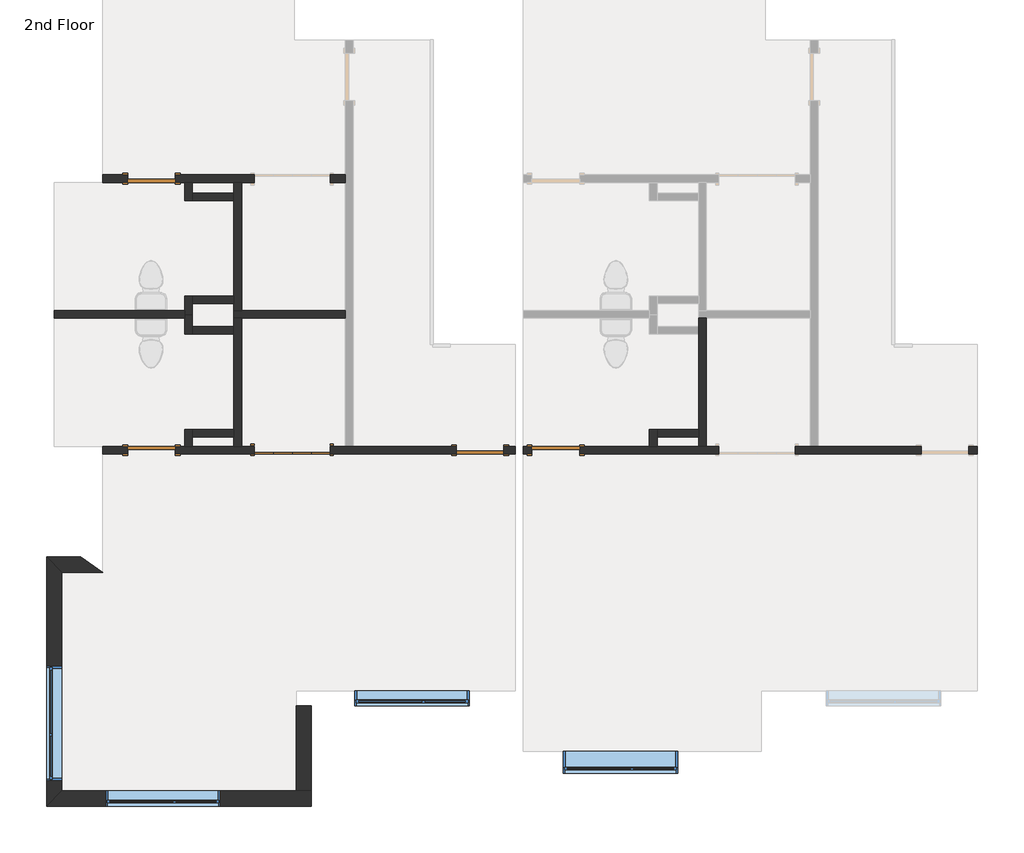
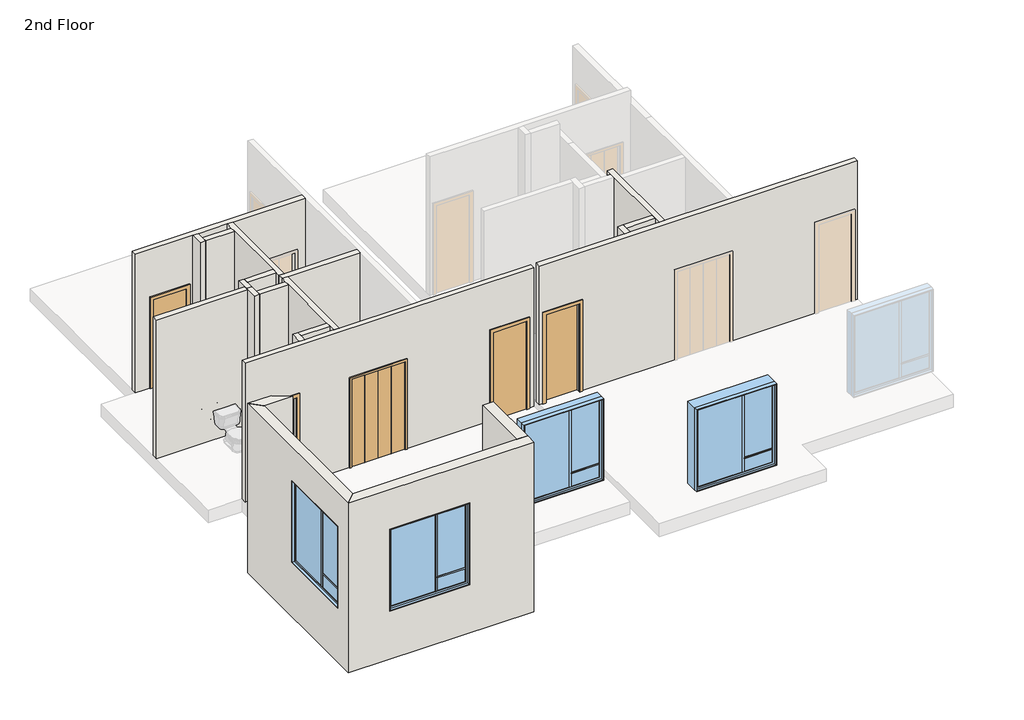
# One storey, part 1 of 2: 22 walls, 5 doors, 4 windows.
"""IFC4 building model written with IfcOpenShell, lengths in millimetres."""

from ifc_helpers import new_model, si_unit, frame, origin, place, context, project, spatial, polyline, outline, extrude, faceted_brep, transform, mapped, element, save
from components import bifold_4_panel_c9060b8c, door_f8acb57e, door_702a1063, condo_apartment_window1_condo_apartment_window1_2f492663, condo_apartment_window1_condo_apartment_window1_8ec80de7

model = new_model("IFC4")

# Units and contexts
model_context = context("Model", 3, world=origin())
ifc_project = project(units=[si_unit("LENGTHUNIT", "METRE", prefix="MILLI")], contexts=[model_context])

# Site, building, storey
site = spatial("IfcSite", under=ifc_project)
building = spatial("IfcBuilding", under=site)
storey = spatial("IfcBuildingStorey", under=building, Name="2nd Floor", Elevation=3352.8)

# Doors
placement = place(None, origin())
bifold_4_panel_shape = bifold_4_panel_c9060b8c(model_context)
element("IfcDoor", 1, ObjectType="Bifold - 4 panel : 48\" x  84\"", at=placement, inside=storey, context=model_context, shape_type="MappedRepresentation", body=[
    mapped(bifold_4_panel_shape, transform((-7422.1019769, 50216.974008, 3352.8), x_axis=(1.0, 0.0, 0.0), y_axis=(0.0, 1.0, 0.0), z_axis=(0.0, 0.0, 1.0))),
])
door_shape = door_f8acb57e(model_context)
element("IfcDoor", 2, ObjectType="Single-Flush : 30\" x 84\"", at=placement, inside=storey, context=model_context, shape_type="MappedRepresentation", body=[
    mapped(door_shape, transform((-9675.5622339, 50216.974008, 3352.8), x_axis=(1.0, 0.0, 0.0), y_axis=(0.0, 1.0, 0.0), z_axis=(0.0, 0.0, 1.0))),
])
door_2_shape = door_702a1063(model_context)
element("IfcDoor", 3, ObjectType="Single-Flush : 30\" x 84\"", at=placement, inside=storey, context=model_context, shape_type="MappedRepresentation", body=[
    mapped(door_2_shape, transform((-3203.0622339, 50216.974008, 3352.8), x_axis=(-1.0, 0.0, 0.0), y_axis=(0.0, -1.0, 0.0), z_axis=(0.0, 0.0, 1.0))),
])
element("IfcDoor", 4, ObjectType="Single-Flush : 30\" x 84\"", at=placement, inside=storey, context=model_context, shape_type="MappedRepresentation", body=[
    mapped(door_2_shape, transform((-9675.5622339, 54569.10012, 3352.8), x_axis=(1.0, 0.0, 0.0), y_axis=(0.0, 1.0, 0.0), z_axis=(0.0, 0.0, 1.0))),
])
element("IfcDoor", 5, ObjectType="Single-Flush : 30\" x 84\"", at=placement, inside=storey, context=model_context, shape_type="MappedRepresentation", body=[
    mapped(door_2_shape, transform((-4414.0519769, 50216.974008, 3352.8), x_axis=(1.0, 0.0, 0.0), y_axis=(0.0, 1.0, 0.0), z_axis=(0.0, 0.0, 1.0))),
])

# Walls
element("IfcWall", 6, ObjectType="Exterior - Stucco", at=placement, inside=storey, context=model_context, shape_type="Brep", body=[
    faceted_brep([(-11355.1372339, 44517.436508, 2952.8), (-7113.7497339, 44517.436508, 2952.8), (-7113.7497339, 44517.436508, 7052.8), (-11355.1372339, 44517.436508, 7052.8), (-10405.9122339, 44517.436508, 6096.0), (-8577.1122339, 44517.436508, 6096.0), (-8577.1122339, 44517.436508, 4114.8), (-10405.9122339, 44517.436508, 4114.8), (-11113.8372339, 44758.736508, 2952.8), (-11113.8372339, 44758.736508, 7052.8), (-7355.0497339, 44758.736508, 7052.8), (-7113.7497339, 44758.736508, 7052.8), (-7113.7497339, 44758.736508, 2952.8), (-7355.0497339, 44758.736508, 2952.8), (-10405.9122339, 44758.736508, 6096.0), (-10405.9122339, 44758.736508, 4114.8), (-8577.1122339, 44758.736508, 4114.8), (-8577.1122339, 44758.736508, 6096.0)], [[[0, 1, 2, 3], [4, 5, 6, 7]], [[8, 9, 10, 11, 12, 13], [14, 15, 16, 17]], [[1, 0, 8, 13, 12]], [[3, 2, 11, 10, 9]], [[0, 3, 9, 8]], [[2, 1, 12, 11]], [[15, 14, 4, 7]], [[16, 15, 7, 6]], [[17, 16, 6, 5]], [[14, 17, 5, 4]]]),
])
element("IfcWall", 7, ObjectType="Exterior - Stucco", at=placement, inside=storey, context=model_context, shape_type="Brep", body=[
    faceted_brep([(-11355.1372339, 48505.649008, 2952.8), (-11355.1372339, 44517.436508, 2952.8), (-11355.1372339, 44517.436508, 7052.8), (-11355.1372339, 48505.649008, 7052.8), (-11355.1372339, 46757.399008, 6248.4), (-11355.1372339, 44928.599008, 6248.4), (-11355.1372339, 44928.599008, 4267.2), (-11355.1372339, 46757.399008, 4267.2), (-11113.8372339, 48264.349008, 2952.8), (-11113.8372339, 48264.349008, 7052.8), (-11113.8372339, 44758.736508, 7052.8), (-11113.8372339, 44758.736508, 2952.8), (-11113.8372339, 46757.399008, 6248.4), (-11113.8372339, 46757.399008, 4267.2), (-11113.8372339, 44928.599008, 4267.2), (-11113.8372339, 44928.599008, 6248.4)], [[[0, 1, 2, 3], [4, 5, 6, 7]], [[8, 9, 10, 11], [12, 13, 14, 15]], [[1, 0, 8, 11]], [[3, 2, 10, 9]], [[0, 3, 9, 8]], [[2, 1, 11, 10]], [[13, 12, 4, 7]], [[14, 13, 7, 6]], [[15, 14, 6, 5]], [[12, 15, 5, 4]]]),
])
element("IfcWall", 8, ObjectType="Exterior - Stucco", at=placement, inside=storey, context=model_context, shape_type="SweptSolid", body=[
    extrude(outline(polyline([(-11355.1372339, 48505.649008), (-10809.4747339, 48505.649008), (-10457.0497339, 48264.349008), (-11113.8372339, 48264.349008), (-11355.1372339, 48505.649008)])), frame((0.0, 0.0, 2952.8), z_axis=(0.0, 0.0, 1.0), x_axis=(1.0, 0.0, 0.0)), (0.0, 0.0, 1.0), 4100.0),
])
element("IfcWall", 9, ObjectType="Exterior - Stucco", at=placement, inside=storey, context=model_context, shape_type="Brep", body=[
    faceted_brep([(-7113.7497339, 44758.736508, 2952.75), (-7113.7497339, 46121.2755538, 2952.75), (-7113.7497339, 46121.2755538, 7052.6671875), (-7113.7497339, 44758.736508, 7052.6671875), (-7355.0497339, 44758.736508, 2952.75), (-7355.0497339, 44758.736508, 7052.6671875), (-7355.0497339, 46121.2755538, 7052.6671875), (-7355.0497339, 46121.2755538, 3048.0), (-7355.0497339, 46121.2755538, 2952.75)], [[[0, 1, 2, 3]], [[4, 5, 6, 7, 8]], [[1, 0, 4, 8]], [[3, 2, 6, 5]], [[1, 8, 7, 6, 2]], [[0, 3, 5, 4]]]),
])
element("IfcWall", 10, ObjectType="Interior - 4 7/8\" Partition (1-hr)", at=placement, inside=storey, context=model_context, shape_type="Brep", body=[
    faceted_brep([(3547.3980231, 50278.886508, 3352.8), (3407.6980231, 50278.886508, 3352.8), (3407.6980231, 50278.886508, 5486.4), (2645.6980231, 50278.886508, 5486.4), (2645.6980231, 50278.886508, 3352.8), (994.9605231, 50278.886508, 3352.8), (871.1355231, 50278.886508, 3352.8), (628.2480231, 50278.886508, 3352.8), (628.2480231, 50278.886508, 5486.4), (-590.9519769, 50278.886508, 5486.4), (-590.9519769, 50278.886508, 3352.8), (-791.8394769, 50278.886508, 3352.8), (-915.6644769, 50278.886508, 3352.8), (-1579.2394769, 50278.886508, 3352.8), (-1703.0644769, 50278.886508, 3352.8), (-2822.0622339, 50278.886508, 3352.8), (-2822.0622339, 50278.886508, 5486.4), (-3584.0622339, 50278.886508, 5486.4), (-3584.0622339, 50278.886508, 3352.8), (-3726.9372339, 50278.886508, 3352.8), (-3726.9372339, 50278.886508, 6705.6), (-1703.0644769, 50278.886508, 6705.6), (-1579.2394769, 50278.886508, 6705.6), (-915.6644769, 50278.886508, 6705.6), (-791.8394769, 50278.886508, 6705.6), (3547.3980231, 50278.886508, 6705.6), (3407.6980231, 50155.061508, 5486.4), (3407.6980231, 50155.061508, 3352.8), (3547.3980231, 50155.061508, 3352.8), (3547.3980231, 50155.061508, 6705.6), (-3726.9372339, 50155.061508, 6705.6), (-3726.9372339, 50155.061508, 3352.8), (-3584.0622339, 50155.061508, 3352.8), (-3584.0622339, 50155.061508, 5486.4), (-2822.0622339, 50155.061508, 5486.4), (-2822.0622339, 50155.061508, 3352.8), (-590.9519769, 50155.061508, 3352.8), (-590.9519769, 50155.061508, 5486.4), (628.2480231, 50155.061508, 5486.4), (628.2480231, 50155.061508, 3352.8), (2645.6980231, 50155.061508, 3352.8), (2645.6980231, 50155.061508, 5486.4)], [[[0, 1, 2, 3, 4, 5, 6, 7, 8, 9, 10, 11, 12, 13, 14, 15, 16, 17, 18, 19, 20, 21, 22, 23, 24, 25]], [[26, 27, 28, 29, 30, 31, 32, 33, 34, 35, 36, 37, 38, 39, 40, 41]], [[28, 27, 1, 0]], [[31, 19, 18, 32]], [[10, 36, 35, 15, 14, 13, 12, 11]], [[40, 39, 7, 6, 5, 4]], [[25, 24, 23, 22, 21, 20, 30, 29]], [[0, 25, 29, 28]], [[20, 19, 31, 30]], [[8, 7, 39, 38]], [[9, 8, 38, 37]], [[10, 9, 37, 36]], [[17, 33, 32, 18]], [[33, 17, 16, 34]], [[34, 16, 15, 35]], [[2, 1, 27, 26]], [[3, 2, 26, 41]], [[4, 3, 41, 40]]]),
])
element("IfcWall", 11, ObjectType="Interior - 4 7/8\" Partition (1-hr)", at=placement, inside=storey, context=model_context, shape_type="Brep", body=[
    faceted_brep([(-915.6644769, 52331.124564, 3352.8), (-915.6644769, 52199.774564, 3352.8), (-915.6644769, 52075.949564, 3352.8), (-915.6644769, 50551.949564, 3352.8), (-915.6644769, 50428.124564, 3352.8), (-915.6644769, 50278.886508, 3352.8), (-915.6644769, 50278.886508, 6705.6), (-915.6644769, 50428.124564, 6705.6), (-915.6644769, 50551.949564, 6705.6), (-915.6644769, 52075.949564, 6705.6), (-915.6644769, 52199.774564, 6705.6), (-915.6644769, 52331.124564, 6705.6), (-915.6644769, 52331.124564, 6400.8), (-791.8394769, 52331.124564, 3352.8), (-791.8394769, 52331.124564, 6705.6), (-791.8394769, 50278.886508, 6705.6), (-791.8394769, 50278.886508, 3352.8)], [[[0, 1, 2, 3, 4, 5, 6, 7, 8, 9, 10, 11, 12]], [[13, 14, 15, 16]], [[5, 4, 3, 2, 1, 0, 13, 16]], [[11, 10, 9, 8, 7, 6, 15, 14]], [[6, 5, 16, 15]], [[0, 12, 11, 14, 13]]]),
])
element("IfcWall", 12, ObjectType="Interior - 4 7/8\" Partition (1-hr)", at=placement, inside=storey, context=model_context, shape_type="Brep", body=[
    faceted_brep([(-1579.2394769, 50278.886508, 3352.8), (-1579.2394769, 50428.124564, 3352.8), (-1579.2394769, 50551.949564, 3352.8), (-1579.2394769, 50551.949564, 6705.6), (-1579.2394769, 50428.124564, 6705.6), (-1579.2394769, 50278.886508, 6705.6), (-1703.0644769, 50278.886508, 3352.8), (-1703.0644769, 50278.886508, 6705.6), (-1703.0644769, 50551.949564, 6705.6), (-1703.0644769, 50551.949564, 3352.8)], [[[0, 1, 2, 3, 4, 5]], [[6, 7, 8, 9]], [[2, 1, 0, 6, 9]], [[5, 4, 3, 8, 7]], [[3, 2, 9, 8]], [[0, 5, 7, 6]]]),
])
element("IfcWall", 13, ObjectType="Interior - 4 7/8\" Partition (1-hr)", at=placement, inside=storey, context=model_context, shape_type="SweptSolid", body=[
    extrude(outline(polyline([(-915.6644769, 50428.124564), (-1579.2394769, 50428.124564), (-1579.2394769, 50551.949564), (-915.6644769, 50551.949564), (-915.6644769, 50428.124564)])), frame((0.0, 0.0, 3352.8), z_axis=(0.0, 0.0, 1.0), x_axis=(1.0, 0.0, 0.0)), (0.0, 0.0, 1.0), 3352.8),
])
element("IfcWall", 14, ObjectType="Interior - 4 7/8\" Partition (1-hr)", at=placement, inside=storey, context=model_context, shape_type="Brep", body=[
    faceted_brep([(-6569.6144769, 52454.949564, 3352.8), (-8232.5894769, 52454.949564, 3352.8), (-8356.4144769, 52454.949564, 3352.8), (-8356.4144769, 52454.949564, 6705.6), (-8232.5894769, 52454.949564, 6705.6), (-6569.6144769, 52454.949564, 6705.6), (-6569.6144769, 52331.124564, 3352.8), (-6569.6144769, 52331.124564, 6705.6), (-8232.5894769, 52331.124564, 6705.6), (-8356.4144769, 52331.124564, 6705.6), (-8356.4144769, 52331.124564, 3352.8), (-8232.5894769, 52331.124564, 3352.8)], [[[0, 1, 2, 3, 4, 5]], [[6, 7, 8, 9, 10, 11]], [[2, 1, 0, 6, 11, 10]], [[5, 4, 3, 9, 8, 7]], [[3, 2, 10, 9]], [[0, 5, 7, 6]]]),
])
element("IfcWall", 15, ObjectType="Interior - 4 7/8\" Partition (1-hr)", at=placement, inside=storey, context=model_context, shape_type="Brep", body=[
    faceted_brep([(-10457.0497339, 54631.01262, 6705.6), (-6569.6144769, 54631.01262, 6705.6), (-6569.6144769, 54631.01262, 3352.8), (-6812.5019769, 54631.01262, 3352.8), (-6812.5019769, 54631.01262, 5486.4), (-8031.7019769, 54631.01262, 5486.4), (-8031.7019769, 54631.01262, 3352.8), (-9294.5622339, 54631.01262, 3352.8), (-9294.5622339, 54631.01262, 5486.4), (-10056.5622339, 54631.01262, 5486.4), (-10056.5622339, 54631.01262, 3352.8), (-10457.0497339, 54631.01262, 3352.8), (-6569.6144769, 54507.18762, 6705.6), (-8232.5894769, 54507.18762, 6705.6), (-8356.4144769, 54507.18762, 6705.6), (-9019.9894769, 54507.18762, 6705.6), (-9143.8144769, 54507.18762, 6705.6), (-10457.0497339, 54507.18762, 6705.6), (-10457.0497339, 54507.18762, 3352.8), (-10056.5622339, 54507.18762, 3352.8), (-10056.5622339, 54507.18762, 5486.4), (-9294.5622339, 54507.18762, 5486.4), (-9294.5622339, 54507.18762, 3352.8), (-9143.8144769, 54507.18762, 3352.8), (-9019.9894769, 54507.18762, 3352.8), (-8356.4144769, 54507.18762, 3352.8), (-8232.5894769, 54507.18762, 3352.8), (-8031.7019769, 54507.18762, 3352.8), (-8031.7019769, 54507.18762, 5486.4), (-6812.5019769, 54507.18762, 5486.4), (-6812.5019769, 54507.18762, 3352.8), (-6569.6144769, 54507.18762, 3352.8)], [[[0, 1, 2, 3, 4, 5, 6, 7, 8, 9, 10, 11]], [[12, 13, 14, 15, 16, 17, 18, 19, 20, 21, 22, 23, 24, 25, 26, 27, 28, 29, 30, 31]], [[2, 31, 30, 3]], [[18, 11, 10, 19]], [[6, 27, 26, 25, 24, 23, 22, 7]], [[1, 0, 17, 16, 15, 14, 13, 12]], [[2, 1, 12, 31]], [[0, 11, 18, 17]], [[29, 4, 3, 30]], [[4, 29, 28, 5]], [[5, 28, 27, 6]], [[21, 8, 7, 22]], [[8, 21, 20, 9]], [[9, 20, 19, 10]]]),
])
element("IfcWall", 16, ObjectType="Interior - 4 7/8\" Partition (1-hr)", at=placement, inside=storey, context=model_context, shape_type="Brep", body=[
    faceted_brep([(-3850.7622339, 50278.886508, 3352.8), (-4033.0519769, 50278.886508, 3352.8), (-4033.0519769, 50278.886508, 5486.4), (-4795.0519769, 50278.886508, 5486.4), (-4795.0519769, 50278.886508, 3352.8), (-6445.7894769, 50278.886508, 3352.8), (-6569.6144769, 50278.886508, 3352.8), (-6812.5019769, 50278.886508, 3352.8), (-6812.5019769, 50278.886508, 5486.4), (-8031.7019769, 50278.886508, 5486.4), (-8031.7019769, 50278.886508, 3352.8), (-8232.5894769, 50278.886508, 3352.8), (-8356.4144769, 50278.886508, 3352.8), (-8368.9088845, 50278.886508, 3352.8), (-9019.9894769, 50278.886508, 3352.8), (-9143.8144769, 50278.886508, 3352.8), (-9294.5622339, 50278.886508, 3352.8), (-9294.5622339, 50278.886508, 5486.4), (-10056.5622339, 50278.886508, 5486.4), (-10056.5622339, 50278.886508, 3352.8), (-10457.0497339, 50278.886508, 3352.8), (-10457.0497339, 50278.886508, 6705.6), (-9143.8144769, 50278.886508, 6705.6), (-9019.9894769, 50278.886508, 6705.6), (-8356.4144769, 50278.886508, 6705.6), (-8232.5894769, 50278.886508, 6705.6), (-6569.6144769, 50278.886508, 6705.6), (-6445.7894769, 50278.886508, 6705.6), (-3850.7622339, 50278.886508, 6705.6), (-4033.0519769, 50155.061508, 5486.4), (-4033.0519769, 50155.061508, 3352.8), (-3850.7622339, 50155.061508, 3352.8), (-3850.7622339, 50155.061508, 6705.6), (-10457.0497339, 50155.061508, 6705.6), (-10457.0497339, 50155.061508, 3352.8), (-10056.5622339, 50155.061508, 3352.8), (-10056.5622339, 50155.061508, 5486.4), (-9294.5622339, 50155.061508, 5486.4), (-9294.5622339, 50155.061508, 3352.8), (-8368.9088845, 50155.061508, 3352.8), (-8031.7019769, 50155.061508, 3352.8), (-8031.7019769, 50155.061508, 5486.4), (-6812.5019769, 50155.061508, 5486.4), (-6812.5019769, 50155.061508, 3352.8), (-4795.0519769, 50155.061508, 3352.8), (-4795.0519769, 50155.061508, 5486.4)], [[[0, 1, 2, 3, 4, 5, 6, 7, 8, 9, 10, 11, 12, 13, 14, 15, 16, 17, 18, 19, 20, 21, 22, 23, 24, 25, 26, 27, 28]], [[29, 30, 31, 32, 33, 34, 35, 36, 37, 38, 39, 40, 41, 42, 43, 44, 45]], [[34, 20, 19, 35]], [[31, 30, 1, 0]], [[10, 40, 39, 38, 16, 15, 14, 13, 12, 11]], [[44, 43, 7, 6, 5, 4]], [[28, 27, 26, 25, 24, 23, 22, 21, 33, 32]], [[21, 20, 34, 33]], [[0, 28, 32, 31]], [[8, 7, 43, 42]], [[9, 8, 42, 41]], [[10, 9, 41, 40]], [[37, 17, 16, 38]], [[17, 37, 36, 18]], [[18, 36, 35, 19]], [[2, 1, 30, 29]], [[3, 2, 29, 45]], [[4, 3, 45, 44]]]),
])
element("IfcWall", 17, ObjectType="Interior - 4 7/8\" Partition (1-hr)", at=placement, inside=storey, context=model_context, shape_type="Brep", body=[
    faceted_brep([(-8356.4144769, 52331.124564, 3352.8), (-8356.4144769, 52199.774564, 3352.8), (-8356.4144769, 52075.949564, 3352.8), (-8356.4144769, 50551.949564, 3352.8), (-8356.4144769, 50428.124564, 3352.8), (-8356.4144769, 50278.886508, 3352.8), (-8356.4144769, 50278.886508, 6705.6), (-8356.4144769, 50428.124564, 6705.6), (-8356.4144769, 50551.949564, 6705.6), (-8356.4144769, 52075.949564, 6705.6), (-8356.4144769, 52199.774564, 6705.6), (-8356.4144769, 52331.124564, 6705.6), (-8232.5894769, 52331.124564, 3352.8), (-8232.5894769, 52331.124564, 6705.6), (-8232.5894769, 50278.886508, 6705.6), (-8232.5894769, 50278.886508, 3352.8)], [[[0, 1, 2, 3, 4, 5, 6, 7, 8, 9, 10, 11]], [[12, 13, 14, 15]], [[5, 4, 3, 2, 1, 0, 12, 15]], [[11, 10, 9, 8, 7, 6, 14, 13]], [[6, 5, 15, 14]], [[0, 11, 13, 12]]]),
])
element("IfcWall", 18, ObjectType="Interior - 4 7/8\" Partition (1-hr)", at=placement, inside=storey, context=model_context, shape_type="Brep", body=[
    faceted_brep([(-9019.9894769, 50278.886508, 3352.8), (-9019.9894769, 50428.124564, 3352.8), (-9019.9894769, 50551.949564, 3352.8), (-9019.9894769, 50551.949564, 6705.6), (-9019.9894769, 50428.124564, 6705.6), (-9019.9894769, 50278.886508, 6705.6), (-9143.8144769, 50278.886508, 3352.8), (-9143.8144769, 50278.886508, 6705.6), (-9143.8144769, 50551.949564, 6705.6), (-9143.8144769, 50551.949564, 3352.8)], [[[0, 1, 2, 3, 4, 5]], [[6, 7, 8, 9]], [[2, 1, 0, 6, 9]], [[5, 4, 3, 8, 7]], [[3, 2, 9, 8]], [[0, 5, 7, 6]]]),
])
element("IfcWall", 19, ObjectType="Interior - 4 7/8\" Partition (1-hr)", at=placement, inside=storey, context=model_context, shape_type="SweptSolid", body=[
    extrude(outline(polyline([(-8356.4144769, 50428.124564), (-9019.9894769, 50428.124564), (-9019.9894769, 50551.949564), (-8356.4144769, 50551.949564), (-8356.4144769, 50428.124564)])), frame((0.0, 0.0, 3352.8), z_axis=(0.0, 0.0, 1.0), x_axis=(1.0, 0.0, 0.0)), (0.0, 0.0, 1.0), 3352.8),
])
element("IfcWall", 20, ObjectType="Interior - 4 7/8\" Partition (1-hr)", at=placement, inside=storey, context=model_context, shape_type="Brep", body=[
    faceted_brep([(-9143.8144769, 52393.037064, 3352.8), (-9143.8144769, 52331.124564, 3352.8), (-9143.8144769, 52075.949564, 3352.8), (-9143.8144769, 52075.949564, 6705.6), (-9143.8144769, 52331.124564, 6705.6), (-9143.8144769, 52393.037064, 6705.6), (-9019.9894769, 52393.037064, 3352.8), (-9019.9894769, 52393.037064, 6705.6), (-9019.9894769, 52199.774564, 6705.6), (-9019.9894769, 52075.949564, 6705.6), (-9019.9894769, 52075.949564, 3352.8), (-9019.9894769, 52199.774564, 3352.8)], [[[0, 1, 2, 3, 4, 5]], [[6, 7, 8, 9, 10, 11]], [[2, 1, 0, 6, 11, 10]], [[5, 4, 3, 9, 8, 7]], [[0, 5, 7, 6]], [[3, 2, 10, 9]]]),
])
element("IfcWall", 21, ObjectType="Interior - 4 7/8\" Partition (1-hr)", at=placement, inside=storey, context=model_context, shape_type="SweptSolid", body=[
    extrude(outline(polyline([(-8356.4144769, 52075.949564), (-9019.9894769, 52075.949564), (-9019.9894769, 52199.774564), (-8356.4144769, 52199.774564), (-8356.4144769, 52075.949564)])), frame((0.0, 0.0, 3352.8), z_axis=(0.0, 0.0, 1.0), x_axis=(1.0, 0.0, 0.0)), (0.0, 0.0, 1.0), 3352.8),
])
element("IfcWall", 22, ObjectType="Interior - Tile Wainscot", at=placement, inside=storey, context=model_context, shape_type="Brep", body=[
    faceted_brep([(-8232.5894769, 52454.949564, 3352.8), (-8232.5894769, 54507.18762, 3352.8), (-8232.5894769, 54507.18762, 6705.6), (-8232.5894769, 52454.949564, 6705.6), (-8356.4144769, 52454.949564, 3352.8), (-8356.4144769, 52454.949564, 6705.6), (-8356.4144769, 52565.71262, 6705.6), (-8356.4144769, 52689.53762, 6705.6), (-8356.4144769, 54213.53762, 6705.6), (-8356.4144769, 54337.36262, 6705.6), (-8356.4144769, 54507.18762, 6705.6), (-8356.4144769, 54507.18762, 3352.8), (-8356.4144769, 54337.36262, 3352.8), (-8356.4144769, 54213.53762, 3352.8), (-8356.4144769, 52689.53762, 3352.8), (-8356.4144769, 52565.71262, 3352.8)], [[[0, 1, 2, 3]], [[4, 5, 6, 7, 8, 9, 10, 11, 12, 13, 14, 15]], [[1, 0, 4, 15, 14, 13, 12, 11]], [[3, 2, 10, 9, 8, 7, 6, 5]], [[0, 3, 5, 4]], [[2, 1, 11, 10]]]),
])
element("IfcWall", 23, ObjectType="Interior - Tile Wainscot", at=placement, inside=storey, context=model_context, shape_type="Brep", body=[
    faceted_brep([(-9143.8144769, 54507.18762, 3352.8), (-9143.8144769, 54213.53762, 3352.8), (-9143.8144769, 54213.53762, 6705.6), (-9143.8144769, 54507.18762, 6705.6), (-9019.9894769, 54507.18762, 3352.8), (-9019.9894769, 54507.18762, 6705.6), (-9019.9894769, 54337.36262, 6705.6), (-9019.9894769, 54213.53762, 6705.6), (-9019.9894769, 54213.53762, 3352.8), (-9019.9894769, 54337.36262, 3352.8)], [[[0, 1, 2, 3]], [[4, 5, 6, 7, 8, 9]], [[1, 0, 4, 9, 8]], [[3, 2, 7, 6, 5]], [[2, 1, 8, 7]], [[0, 3, 5, 4]]]),
])
element("IfcWall", 24, ObjectType="Interior - Tile Wainscot", at=placement, inside=storey, context=model_context, shape_type="SweptSolid", body=[
    extrude(outline(polyline([(-8356.4144769, 54213.53762), (-9019.9894769, 54213.53762), (-9019.9894769, 54337.36262), (-8356.4144769, 54337.36262), (-8356.4144769, 54213.53762)])), frame((0.0, 0.0, 3352.8), z_axis=(0.0, 0.0, 1.0), x_axis=(1.0, 0.0, 0.0)), (0.0, 0.0, 1.0), 3352.8),
])
element("IfcWall", 25, ObjectType="Interior - Tile Wainscot", at=placement, inside=storey, context=model_context, shape_type="Brep", body=[
    faceted_brep([(-9019.9894769, 52393.037064, 3352.8), (-9019.9894769, 52565.71262, 3352.8), (-9019.9894769, 52689.53762, 3352.8), (-9019.9894769, 52689.53762, 6705.6), (-9019.9894769, 52565.71262, 6705.6), (-9019.9894769, 52393.037064, 6705.6), (-9143.8144769, 52393.037064, 3352.8), (-9143.8144769, 52393.037064, 6705.6), (-9143.8144769, 52454.949564, 6705.6), (-9143.8144769, 52689.53762, 6705.6), (-9143.8144769, 52689.53762, 3352.8), (-9143.8144769, 52454.949564, 3352.8)], [[[0, 1, 2, 3, 4, 5]], [[6, 7, 8, 9, 10, 11]], [[2, 1, 0, 6, 11, 10]], [[5, 4, 3, 9, 8, 7]], [[0, 5, 7, 6]], [[3, 2, 10, 9]]]),
])
element("IfcWall", 26, ObjectType="Interior - Tile Wainscot", at=placement, inside=storey, context=model_context, shape_type="SweptSolid", body=[
    extrude(outline(polyline([(-8356.4144769, 52565.71262), (-9019.9894769, 52565.71262), (-9019.9894769, 52689.53762), (-8356.4144769, 52689.53762), (-8356.4144769, 52565.71262)])), frame((0.0, 0.0, 3352.8), z_axis=(0.0, 0.0, 1.0), x_axis=(1.0, 0.0, 0.0)), (0.0, 0.0, 1.0), 3352.8),
])
element("IfcWall", 27, ObjectType="Interior - Tile Wainscot", at=placement, inside=storey, context=model_context, shape_type="Brep", body=[
    faceted_brep([(-9143.8144769, 52454.949564, 3352.8), (-11231.3122339, 52454.949564, 3352.8), (-11231.3122339, 52454.949564, 6705.6), (-9143.8144769, 52454.949564, 6705.6), (-9143.8144769, 52331.124564, 3352.8), (-9143.8144769, 52331.124564, 6705.6), (-11231.3122339, 52331.124564, 6705.6), (-11231.3122339, 52331.124564, 3352.8), (-9143.8144769, 52393.037064, 3352.8), (-9143.8144769, 52393.037064, 6705.6)], [[[0, 1, 2, 3]], [[4, 5, 6, 7]], [[1, 0, 8, 4, 7]], [[3, 2, 6, 5, 9]], [[0, 3, 9, 5, 4, 8]], [[2, 1, 7, 6]]]),
])

# Windows
condo_apartment_window1_condo_apartment_window1_shape = condo_apartment_window1_condo_apartment_window1_2f492663(model_context)
element("IfcWindow", 28, ObjectType="Condo - Apartment Window1 : Condo - Apartment Window1", at=placement, inside=storey, context=model_context, shape_type="MappedRepresentation", body=[
    mapped(condo_apartment_window1_condo_apartment_window1_shape, transform((-11234.4872339, 45881.099008, 3365.5), x_axis=(0.0, 1.0, 0.0), y_axis=(-1.0, 0.0, 0.0), z_axis=(0.0, 0.0, 1.0))),
])
element("IfcWindow", 29, ObjectType="Condo - Apartment Window1 : Condo - Apartment Window1", at=placement, inside=storey, context=model_context, shape_type="MappedRepresentation", body=[
    mapped(condo_apartment_window1_condo_apartment_window1_shape, transform((-9529.6122339, 44638.086508, 3213.1), x_axis=(-1.0, 0.0, 0.0), y_axis=(0.0, -1.0, 0.0), z_axis=(0.0, 0.0, 1.0))),
])
element("IfcWindow", 30, ObjectType="Condo - Apartment Window1 : Condo - Apartment Window1", at=placement, inside=storey, context=model_context, shape_type="MappedRepresentation", body=[
    mapped(condo_apartment_window1_condo_apartment_window1_shape, transform((-5541.5691415, 46241.9255538, 3365.5), x_axis=(-1.0, 0.0, 0.0), y_axis=(0.0, -1.0, 0.0), z_axis=(0.0, 0.0, 1.0))),
])
condo_apartment_window1_condo_apartment_window1_2_shape = condo_apartment_window1_condo_apartment_window1_8ec80de7(model_context)
element("IfcWindow", 31, ObjectType="Condo - Apartment Window1 : Condo - Apartment Window1", at=placement, inside=storey, context=model_context, shape_type="MappedRepresentation", body=[
    mapped(condo_apartment_window1_condo_apartment_window1_2_shape, transform((-2205.1236894, 45221.849008, 3213.1), x_axis=(-1.0, 0.0, 0.0), y_axis=(0.0, -1.0, 0.0), z_axis=(0.0, 0.0, 1.0))),
])

save(model, "model.ifc")
